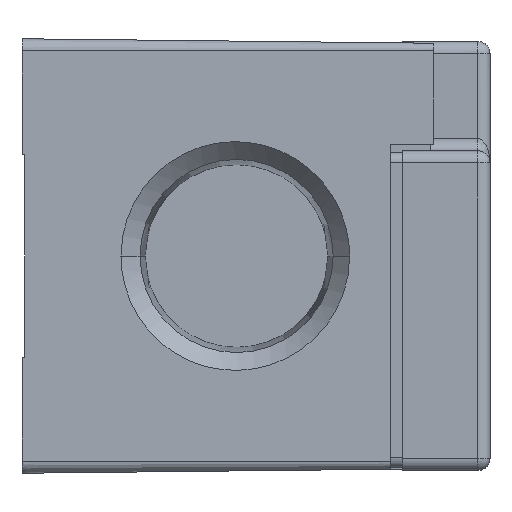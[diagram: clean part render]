
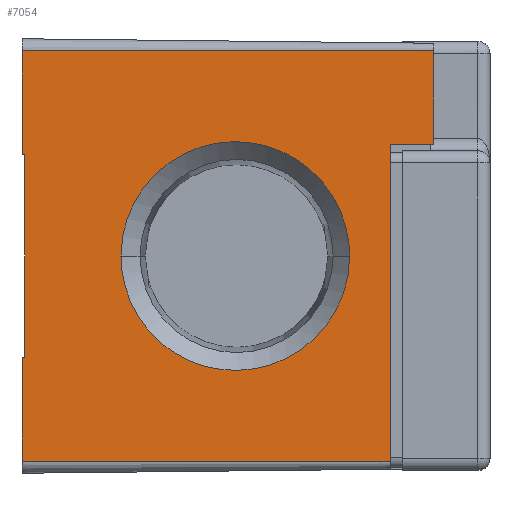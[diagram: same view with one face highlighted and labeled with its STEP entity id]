
A CAD part, front view. The second image highlights one B-rep face of the part: STEP entity #7054.
In plain terms, the highlighted planar face has unit normal (0.011, -1, 0).
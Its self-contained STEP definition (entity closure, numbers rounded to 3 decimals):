
#152=DIRECTION('',(0.,0.,1.));
#153=VECTOR('',#152,19.202);
#154=CARTESIAN_POINT('',(-21.209,-81.379,-9.601));
#155=LINE('',#154,#153);
#156=DIRECTION('',(1.,0.011,0.));
#157=VECTOR('',#156,0.254);
#158=CARTESIAN_POINT('',(-21.463,-81.382,9.601));
#159=LINE('',#158,#157);
#160=DIRECTION('',(0.,0.,1.));
#161=VECTOR('',#160,9.83);
#162=CARTESIAN_POINT('',(-21.463,-81.382,9.601));
#163=LINE('',#162,#161);
#164=DIRECTION('',(0.,0.,1.));
#165=VECTOR('',#164,8.839);
#166=CARTESIAN_POINT('',(17.526,-80.96,10.592));
#167=LINE('',#166,#165);
#168=DIRECTION('',(-1.,-0.011,0.));
#169=VECTOR('',#168,4.064);
#170=CARTESIAN_POINT('',(17.526,-80.96,10.592));
#171=LINE('',#170,#169);
#172=DIRECTION('',(0.,0.,1.));
#173=VECTOR('',#172,9.83);
#174=CARTESIAN_POINT('',(-21.463,-81.382,-19.431));
#175=LINE('',#174,#173);
#176=DIRECTION('',(1.,0.011,0.));
#177=VECTOR('',#176,0.254);
#178=CARTESIAN_POINT('',(-21.463,-81.382,-9.601));
#179=LINE('',#178,#177);
#180=CARTESIAN_POINT('',(9.57,-81.046,0.));
#181=CARTESIAN_POINT('',(9.57,-81.046,
-0.638));
#182=CARTESIAN_POINT('',(9.457,-81.047,-1.962));
#183=CARTESIAN_POINT('',(8.882,-81.053,-3.999));
#184=CARTESIAN_POINT('',(7.873,-81.064,-5.961));
#185=CARTESIAN_POINT('',(6.453,-81.08,-7.713));
#186=CARTESIAN_POINT('',(4.993,-81.095,-8.896));
#187=CARTESIAN_POINT('',(3.72,-81.109,-9.638));
#188=CARTESIAN_POINT('',(2.73,-81.12,-10.087));
#189=CARTESIAN_POINT('',(1.72,-81.131,-10.429));
#190=CARTESIAN_POINT('',(0.877,-81.14,
-10.626));
#191=CARTESIAN_POINT('',(0.209,-81.147,
-10.734));
#192=CARTESIAN_POINT('',(-0.288,-81.152,
-10.79));
#193=CARTESIAN_POINT('',(-0.697,-81.157,
-10.817));
#194=CARTESIAN_POINT('',(-1.02,-81.16,
-10.828));
#195=CARTESIAN_POINT('',(-1.26,-81.163,
-10.831));
#196=CARTESIAN_POINT('',(-1.5,-81.166,
-10.828));
#197=CARTESIAN_POINT('',(-1.824,-81.169,
-10.817));
#198=CARTESIAN_POINT('',(-2.232,-81.173,
-10.79));
#199=CARTESIAN_POINT('',(-2.729,-81.179,
-10.734));
#200=CARTESIAN_POINT('',(-3.398,-81.186,
-10.626));
#201=CARTESIAN_POINT('',(-4.241,-81.195,
-10.429));
#202=CARTESIAN_POINT('',(-5.25,-81.206,
-10.087));
#203=CARTESIAN_POINT('',(-6.24,-81.217,
-9.638));
#204=CARTESIAN_POINT('',(-7.514,-81.231,
-8.896));
#205=CARTESIAN_POINT('',(-8.974,-81.246,
-7.713));
#206=CARTESIAN_POINT('',(-10.394,-81.262,
-5.961));
#207=CARTESIAN_POINT('',(-11.403,-81.273,
-3.999));
#208=CARTESIAN_POINT('',(-11.977,-81.279,
-1.962));
#209=CARTESIAN_POINT('',(-12.091,-81.28,
-0.638));
#210=CARTESIAN_POINT('',(-12.091,-81.28,0.));
#212=CARTESIAN_POINT('',(-12.091,-81.28,0.));
#213=CARTESIAN_POINT('',(-12.091,-81.28,
0.638));
#214=CARTESIAN_POINT('',(-11.977,-81.279,1.962));
#215=CARTESIAN_POINT('',(-11.403,-81.273,3.999));
#216=CARTESIAN_POINT('',(-10.394,-81.262,5.961));
#217=CARTESIAN_POINT('',(-8.974,-81.246,7.713));
#218=CARTESIAN_POINT('',(-7.514,-81.231,8.896));
#219=CARTESIAN_POINT('',(-6.24,-81.217,9.638));
#220=CARTESIAN_POINT('',(-5.25,-81.206,10.087));
#221=CARTESIAN_POINT('',(-4.241,-81.195,10.429));
#222=CARTESIAN_POINT('',(-3.398,-81.186,10.626));
#223=CARTESIAN_POINT('',(-2.729,-81.179,10.734));
#224=CARTESIAN_POINT('',(-2.232,-81.173,10.79));
#225=CARTESIAN_POINT('',(-1.824,-81.169,10.817));
#226=CARTESIAN_POINT('',(-1.5,-81.166,10.828));
#227=CARTESIAN_POINT('',(-1.26,-81.163,10.831));
#228=CARTESIAN_POINT('',(-1.02,-81.16,10.828));
#229=CARTESIAN_POINT('',(-0.697,-81.157,
10.817));
#230=CARTESIAN_POINT('',(-0.288,-81.152,
10.79));
#231=CARTESIAN_POINT('',(0.209,-81.147,10.734));
#232=CARTESIAN_POINT('',(0.877,-81.14,10.626));
#233=CARTESIAN_POINT('',(1.72,-81.131,10.429));
#234=CARTESIAN_POINT('',(2.73,-81.12,10.087));
#235=CARTESIAN_POINT('',(3.72,-81.109,9.638));
#236=CARTESIAN_POINT('',(4.993,-81.095,8.896));
#237=CARTESIAN_POINT('',(6.453,-81.08,7.713));
#238=CARTESIAN_POINT('',(7.873,-81.064,5.961));
#239=CARTESIAN_POINT('',(8.882,-81.053,3.999));
#240=CARTESIAN_POINT('',(9.457,-81.047,1.962));
#241=CARTESIAN_POINT('',(9.57,-81.046,0.638));
#242=CARTESIAN_POINT('',(9.57,-81.046,0.));
#2983=DIRECTION('',(0.,0.,1.));
#2984=VECTOR('',#2983,30.023);
#2985=CARTESIAN_POINT('',(13.462,-81.004,-19.431));
#2986=LINE('',#2985,#2984);
#4735=DIRECTION('',(1.,0.011,0.));
#4736=VECTOR('',#4735,38.991);
#4737=CARTESIAN_POINT('',(-21.463,-81.382,19.431));
#4738=LINE('',#4737,#4736);
#5159=DIRECTION('',(1.,0.011,0.));
#5160=VECTOR('',#5159,34.927);
#5161=CARTESIAN_POINT('',(-21.463,-81.382,-19.431));
#5162=LINE('',#5161,#5160);
#5779=CARTESIAN_POINT('',(17.526,-80.96,10.592));
#5780=CARTESIAN_POINT('',(13.462,-81.004,10.592));
#5781=VERTEX_POINT('',#5779);
#5782=VERTEX_POINT('',#5780);
#5787=CARTESIAN_POINT('',(-21.463,-81.382,19.431));
#5788=CARTESIAN_POINT('',(17.526,-80.96,19.431));
#5789=VERTEX_POINT('',#5787);
#5790=VERTEX_POINT('',#5788);
#5795=CARTESIAN_POINT('',(-21.463,-81.382,-19.431));
#5796=CARTESIAN_POINT('',(13.462,-81.004,-19.431));
#5797=VERTEX_POINT('',#5795);
#5798=VERTEX_POINT('',#5796);
#5815=CARTESIAN_POINT('',(-21.209,-81.379,-9.601));
#5816=CARTESIAN_POINT('',(-21.209,-81.379,9.601));
#5817=VERTEX_POINT('',#5815);
#5818=VERTEX_POINT('',#5816);
#5819=CARTESIAN_POINT('',(-21.463,-81.382,-9.601));
#5820=VERTEX_POINT('',#5819);
#5821=CARTESIAN_POINT('',(-21.463,-81.382,9.601));
#5822=VERTEX_POINT('',#5821);
#5823=VERTEX_POINT('',#180);
#5824=VERTEX_POINT('',#210);
#7024=CARTESIAN_POINT('',(-21.463,-81.382,-46.096));
#7025=DIRECTION('',(0.011,-1.,0.));
#7026=DIRECTION('',(0.,0.,1.));
#7027=AXIS2_PLACEMENT_3D('',#7024,#7025,#7026);
#7028=PLANE('',#7027);
#7029=ORIENTED_EDGE('',*,*,#6923,.T.);
#7031=ORIENTED_EDGE('',*,*,#7030,.F.);
#7033=ORIENTED_EDGE('',*,*,#7032,.T.);
#7035=ORIENTED_EDGE('',*,*,#7034,.T.);
#7037=ORIENTED_EDGE('',*,*,#7036,.F.);
#7039=ORIENTED_EDGE('',*,*,#7038,.T.);
#7041=ORIENTED_EDGE('',*,*,#7040,.F.);
#7043=ORIENTED_EDGE('',*,*,#7042,.F.);
#7044=ORIENTED_EDGE('',*,*,#6997,.T.);
#7045=ORIENTED_EDGE('',*,*,#7019,.T.);
#7046=EDGE_LOOP('',(#7029,#7031,#7033,#7035,#7037,#7039,#7041,#7043,#7044,
#7045));
#7047=FACE_OUTER_BOUND('',#7046,.F.);
#7049=ORIENTED_EDGE('',*,*,#7048,.F.);
#7051=ORIENTED_EDGE('',*,*,#7050,.F.);
#7052=EDGE_LOOP('',(#7049,#7051));
#7053=FACE_BOUND('',#7052,.F.);
#7054=ADVANCED_FACE('',(#7047,#7053),#7028,.T.);
#211=B_SPLINE_CURVE_WITH_KNOTS('',3,(#180,#181,#182,#183,#184,#185,#186,#187,
#188,#189,#190,#191,#192,#193,#194,#195,#196,#197,#198,#199,#200,#201,#202,#203,
#204,#205,#206,#207,#208,#209,#210),.UNSPECIFIED.,.F.,.F.,(4,1,1,1,1,1,1,1,1,1,
1,1,1,1,1,1,1,1,1,1,1,1,1,1,1,1,1,1,4),(0.,0.063,0.125,0.188,0.25,
0.313,0.344,0.375,0.406,0.438,0.453,0.469,0.484,
0.492,0.5,0.508,0.516,0.531,0.547,0.563,
0.594,0.625,0.656,0.688,0.75,0.813,0.875,0.938,1.),
.UNSPECIFIED.);
#243=B_SPLINE_CURVE_WITH_KNOTS('',3,(#212,#213,#214,#215,#216,#217,#218,#219,
#220,#221,#222,#223,#224,#225,#226,#227,#228,#229,#230,#231,#232,#233,#234,#235,
#236,#237,#238,#239,#240,#241,#242),.UNSPECIFIED.,.F.,.F.,(4,1,1,1,1,1,1,1,1,1,
1,1,1,1,1,1,1,1,1,1,1,1,1,1,1,1,1,1,4),(0.,0.063,0.125,0.188,0.25,
0.313,0.344,0.375,0.406,0.438,0.453,0.469,0.484,
0.492,0.5,0.508,0.516,0.531,0.547,0.563,
0.594,0.625,0.656,0.688,0.75,0.813,0.875,0.938,1.),
.UNSPECIFIED.);
#6923=EDGE_CURVE('',#5817,#5818,#155,.T.);
#6997=EDGE_CURVE('',#5797,#5820,#175,.T.);
#7019=EDGE_CURVE('',#5820,#5817,#179,.T.);
#7030=EDGE_CURVE('',#5822,#5818,#159,.T.);
#7032=EDGE_CURVE('',#5822,#5789,#163,.T.);
#7034=EDGE_CURVE('',#5789,#5790,#4738,.T.);
#7036=EDGE_CURVE('',#5781,#5790,#167,.T.);
#7038=EDGE_CURVE('',#5781,#5782,#171,.T.);
#7040=EDGE_CURVE('',#5798,#5782,#2986,.T.);
#7042=EDGE_CURVE('',#5797,#5798,#5162,.T.);
#7048=EDGE_CURVE('',#5823,#5824,#211,.T.);
#7050=EDGE_CURVE('',#5824,#5823,#243,.T.);
